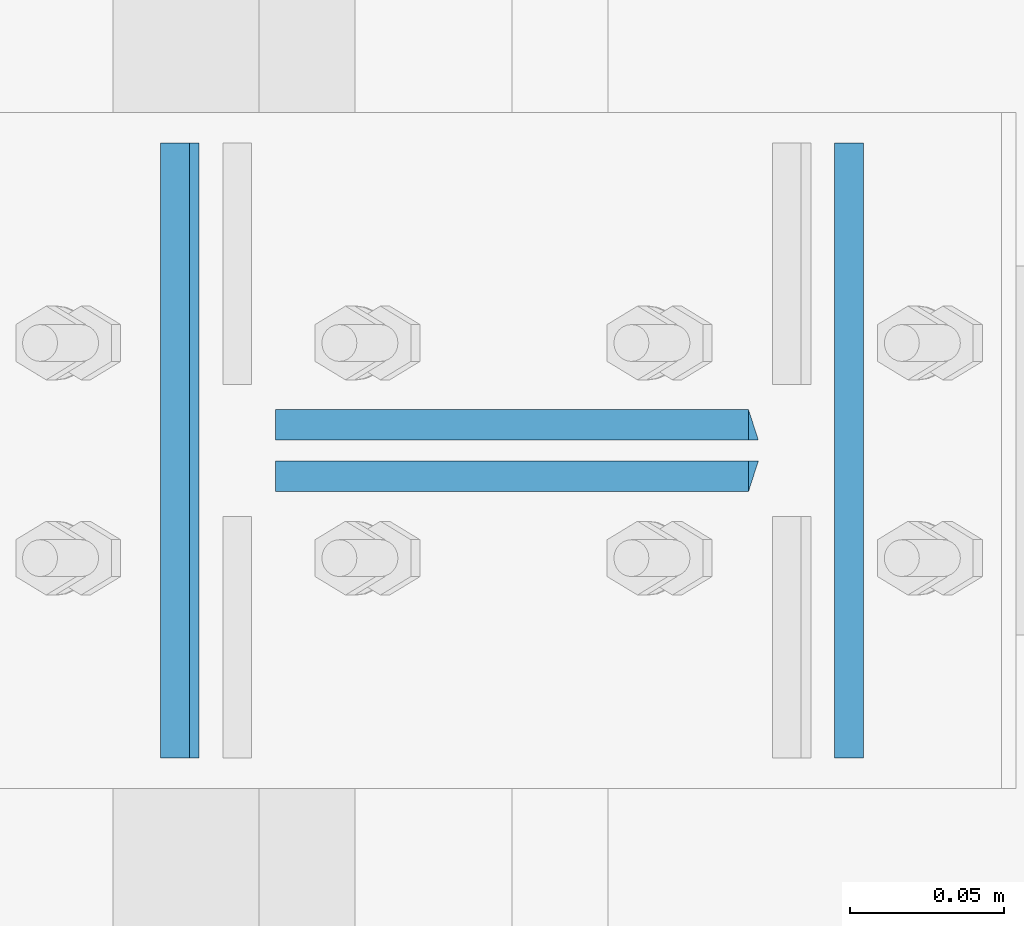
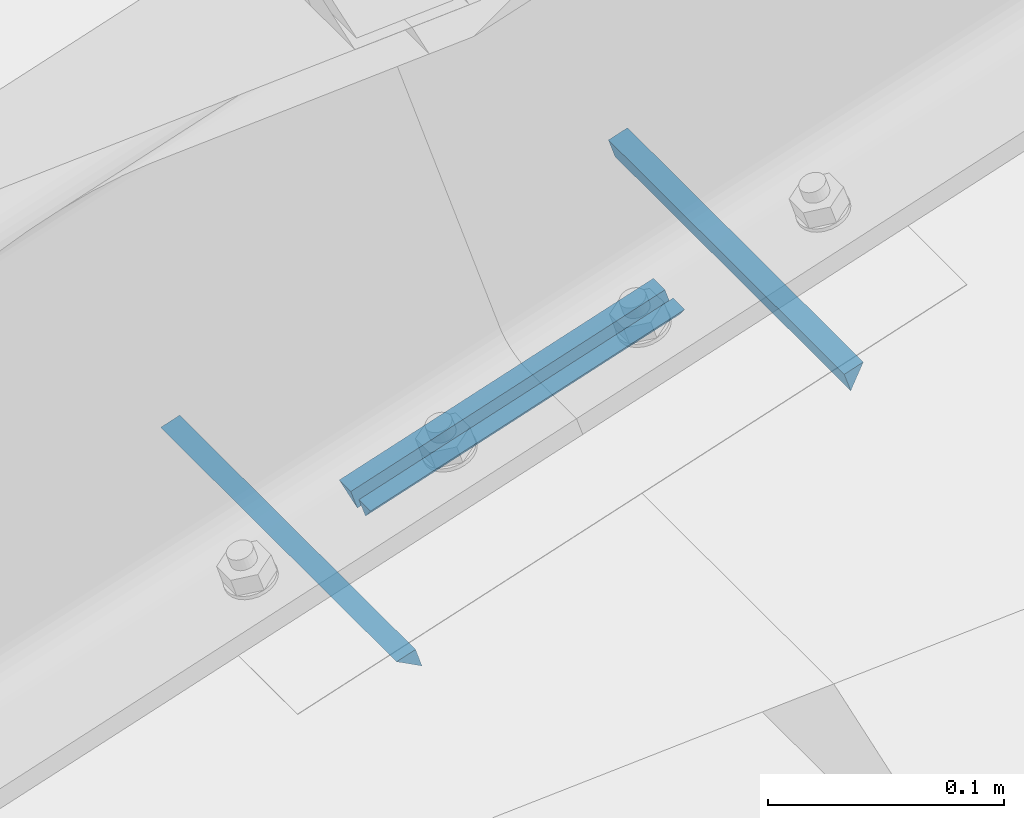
# One storey, part 16 of 53: 8 fasteners.
"""IFC4 building model written with IfcOpenShell, lengths in metres."""

from ifc_helpers import new_model, si_unit, frame, origin_with_axes, place, context, project, spatial, polyline, outline, extrude, type_object, element, save


model = new_model("IFC4")

# Units and contexts
model_context = context("Model", 3, precision=1e-05, world=origin_with_axes())
ifc_project = project(units=[si_unit("LENGTHUNIT", "METRE"), si_unit("AREAUNIT", "SQUARE_METRE"), si_unit("VOLUMEUNIT", "CUBIC_METRE"), si_unit("MASSUNIT", "GRAM", prefix="KILO"), si_unit("TIMEUNIT", "SECOND"), si_unit("PLANEANGLEUNIT", "RADIAN"), si_unit("SOLIDANGLEUNIT", "STERADIAN"), si_unit("THERMODYNAMICTEMPERATUREUNIT", "DEGREE_CELSIUS")], contexts=[model_context])

# Site, building, storey
placement_1 = place(None, origin_with_axes())
site = spatial("IfcSite", under=ifc_project, at=placement_1, Name="Italia", CompositionType="ELEMENT")
building = spatial("IfcBuilding", under=site, at=placement_1, Name="Capannone", CompositionType="ELEMENT")
storey_placement = place(None, frame((0.0, 0.0, 5.550000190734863), z_axis=(0.0, 0.0, 1.0), x_axis=(1.0, 0.0, 0.0)))
storey = spatial("IfcBuildingStorey", under=building, at=storey_placement, Name="Storey 1", CompositionType="ELEMENT", Elevation=5.550000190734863)

# Fasteners
fastener_type_1 = type_object("IfcFastenerType", Name="Collegamenti 0101_0001 0103_0003 0105_0005 0107_0007 0109_0009 0111_0011", PredefinedType="WELD")
placement_2 = place(placement_1, origin_with_axes())
fastener_1_placement = place(placement_2, origin_with_axes())
element("IfcFastener", 1, at=fastener_1_placement, inside=storey, type_object=fastener_type_1, Name="Collegamenti 0101_0001 0103_0003 0105_0005 0107_0007 0109_0009 0111_0011", context=model_context, shape_type="SweptSolid", body=[
    extrude(outline(polyline([(0.0, 0.0), (-0.0125507, -0.00658464), (-0.00937506, 0.00308037), (0.0, 0.0)])), frame((-0.114344, 8.89995, 5.49669), z_axis=(0.0, 1.0, 0.0), x_axis=(-1.0, 0.0, 0.0)), (0.0, 0.0, 1.0), 0.2001),
])
fastener_type_2 = type_object("IfcFastenerType", Name="Collegamenti 0101_0001 0103_0003 0105_0005 0107_0007 0109_0009 0111_0011", PredefinedType="WELD")
fastener_2_placement = place(placement_2, origin_with_axes())
element("IfcFastener", 2, at=fastener_2_placement, inside=storey, type_object=fastener_type_2, Name="Collegamenti 0101_0001 0103_0003 0105_0005 0107_0007 0109_0009 0111_0011", context=model_context, shape_type="SweptSolid", body=[
    extrude(outline(polyline([(0.0, 0.0), (-0.00619942, -0.0127454), (-0.00937507, -0.00308037), (0.0, 0.0)])), frame((0.114311, 9.10005, 5.57182), z_axis=(0.0, -1.0, 0.0), x_axis=(1.0, 0.0, 0.0)), (0.0, 0.0, 1.0), 0.2001),
])
fastener_type_3 = type_object("IfcFastenerType", Name="Collegamenti 0101_0001 0103_0003 0105_0005 0107_0007 0109_0009 0111_0011", PredefinedType="WELD")
fastener_3_placement = place(placement_2, origin_with_axes())
element("IfcFastener", 3, at=fastener_3_placement, inside=storey, type_object=fastener_type_3, Name="Collegamenti 0101_0001 0103_0003 0105_0005 0107_0007 0109_0009 0111_0011", context=model_context, shape_type="SweptSolid", body=[
    extrude(outline(polyline([(0.0, 0.0), (-0.00986767, -0.0101733), (-0.00986767, 0.0), (0.0, 0.0)])), frame((-0.076963, 9.01332, 5.50898), z_axis=(0.950031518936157, 0.0, 0.312153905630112), x_axis=(0.0, 1.0, 0.0)), (0.0, 0.0, 1.0), 0.161988),
])
fastener_type_4 = type_object("IfcFastenerType", Name="Collegamenti 0101_0001 0103_0003 0105_0005 0107_0007 0109_0009 0111_0011", PredefinedType="WELD")
fastener_4_placement = place(placement_2, origin_with_axes())
element("IfcFastener", 4, at=fastener_4_placement, inside=storey, type_object=fastener_type_4, Name="Collegamenti 0101_0001 0103_0003 0105_0005 0107_0007 0109_0009 0111_0011", context=model_context, shape_type="SweptSolid", body=[
    extrude(outline(polyline([(0.0, 0.0), (-0.00986767, -0.0101728), (-0.00986767, 0.0), (0.0, 0.0)])), frame((0.0769309, 8.98668, 5.55954), z_axis=(-0.950031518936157, 0.0, -0.312153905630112), x_axis=(0.0, -1.0, 0.0)), (0.0, 0.0, 1.0), 0.161988),
])
fastener_type_5 = type_object("IfcFastenerType", Name="Collegamenti 0101_0001 0103_0003 0105_0005 0107_0007 0109_0009 0111_0011", PredefinedType="WELD")
fastener_5_placement = place(placement_2, origin_with_axes())
element("IfcFastener", 5, at=fastener_5_placement, inside=storey, type_object=fastener_type_5, Name="Collegamenti 0101_0001 0103_0003 0105_0005 0107_0007 0109_0009 0111_0011", context=model_context, shape_type="SweptSolid", body=[
    extrude(outline(polyline([(0.0, 0.0), (-0.0125507, -0.00658464), (-0.00937506, 0.00308037), (0.0, 0.0)])), frame((-0.114344, 8.89995, 5.49669), z_axis=(0.0, 1.0, 0.0), x_axis=(-1.0, 0.0, 0.0)), (0.0, 0.0, 1.0), 0.2001),
])
fastener_type_6 = type_object("IfcFastenerType", Name="Collegamenti 0101_0001 0103_0003 0105_0005 0107_0007 0109_0009 0111_0011", PredefinedType="WELD")
fastener_6_placement = place(placement_2, origin_with_axes())
element("IfcFastener", 6, at=fastener_6_placement, inside=storey, type_object=fastener_type_6, Name="Collegamenti 0101_0001 0103_0003 0105_0005 0107_0007 0109_0009 0111_0011", context=model_context, shape_type="SweptSolid", body=[
    extrude(outline(polyline([(0.0, 0.0), (-0.00619942, -0.0127454), (-0.00937507, -0.00308037), (0.0, 0.0)])), frame((0.114311, 9.10005, 5.57182), z_axis=(0.0, -1.0, 0.0), x_axis=(1.0, 0.0, 0.0)), (0.0, 0.0, 1.0), 0.2001),
])
fastener_type_7 = type_object("IfcFastenerType", Name="Collegamenti 0101_0001 0103_0003 0105_0005 0107_0007 0109_0009 0111_0011", PredefinedType="WELD")
fastener_7_placement = place(placement_2, origin_with_axes())
element("IfcFastener", 7, at=fastener_7_placement, inside=storey, type_object=fastener_type_7, Name="Collegamenti 0101_0001 0103_0003 0105_0005 0107_0007 0109_0009 0111_0011", context=model_context, shape_type="SweptSolid", body=[
    extrude(outline(polyline([(0.0, 0.0), (-0.00986767, -0.0101733), (-0.00986767, 0.0), (0.0, 0.0)])), frame((-0.076963, 9.01332, 5.50898), z_axis=(0.950031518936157, 0.0, 0.312153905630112), x_axis=(0.0, 1.0, 0.0)), (0.0, 0.0, 1.0), 0.161988),
])
fastener_type_8 = type_object("IfcFastenerType", Name="Collegamenti 0101_0001 0103_0003 0105_0005 0107_0007 0109_0009 0111_0011", PredefinedType="WELD")
fastener_8_placement = place(placement_2, origin_with_axes())
element("IfcFastener", 8, at=fastener_8_placement, inside=storey, type_object=fastener_type_8, Name="Collegamenti 0101_0001 0103_0003 0105_0005 0107_0007 0109_0009 0111_0011", context=model_context, shape_type="SweptSolid", body=[
    extrude(outline(polyline([(0.0, 0.0), (-0.00986767, -0.0101728), (-0.00986767, 0.0), (0.0, 0.0)])), frame((0.0769309, 8.98668, 5.55954), z_axis=(-0.950031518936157, 0.0, -0.312153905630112), x_axis=(0.0, -1.0, 0.0)), (0.0, 0.0, 1.0), 0.161988),
])

save(model, "model.ifc")
